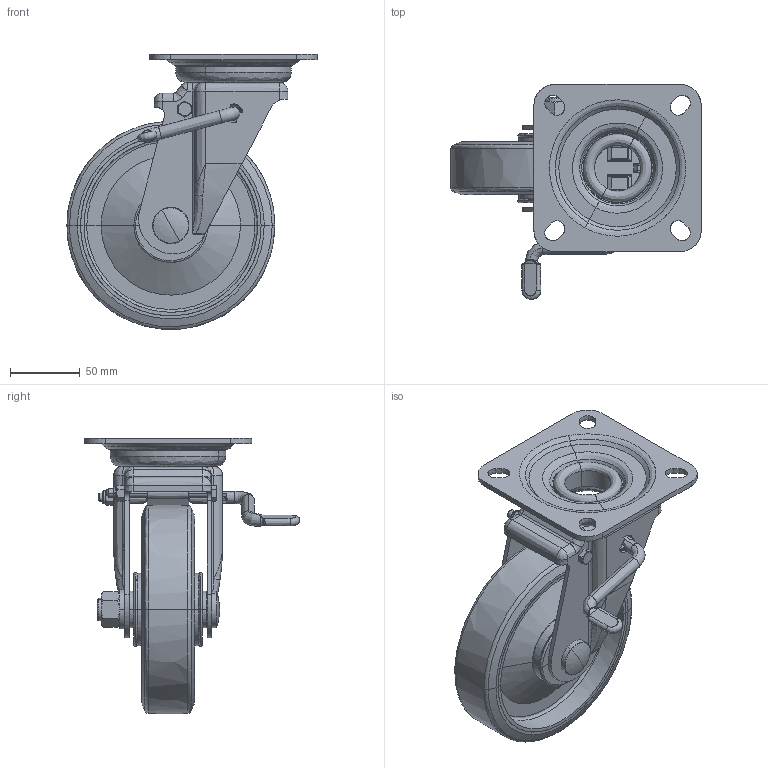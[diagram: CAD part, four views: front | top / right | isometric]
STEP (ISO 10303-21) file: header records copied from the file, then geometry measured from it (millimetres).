
FILE_DESCRIPTION (( 'STEP AP214' ), '1' );
FILE_NAME ('P-150WJS-stp.STEP', '2022-12-26T02:40:14', ( 'sakai' ), ( 'Hewlett-Packard' ), 'SwSTEP 2.0', 'SolidWorks 2010', '' );
FILE_SCHEMA (( 'AUTOMOTIVE_DESIGN' ));
Length unit declared in the file: millimetre
Products named in the file (12): P150WJS-10; P150WJS-15; P150WJS-20; P150WJS-25; P150WJS-30; P150WJS-35; P150WJS-40; P150WJS-45; P150WJS-50; P150WJS-55; P150WJS-60; P-150WJS-stp
Assembly tree (11 placements, depth 2):
  P-150WJS-stp
    P150WJS-50
    P150WJS-20
    P150WJS-35
    P150WJS-40
    P150WJS-30
    P150WJS-10
    P150WJS-55
    P150WJS-60
    P150WJS-15
    P150WJS-25
    P150WJS-45
Bounding box: 179.61 x 154.32 x 197.96 mm (x, y, z)
Volume: 482647.5 mm3; surface area: 284418.2 mm2
Topology: 23 solids, 23 shells, 1083 faces, 6843 edges, 5770 vertices
Faces by surface type: bspline 821, plane 262
Entity records: 174998 total; most frequent: CARTESIAN_POINT 127256, ORIENTED_EDGE 13606, EDGE_CURVE 6803, VERTEX_POINT 5770, B_SPLINE_CURVE_WITH_KNOTS 5320, DIRECTION 2035, VECTOR 1483, LINE 1483
